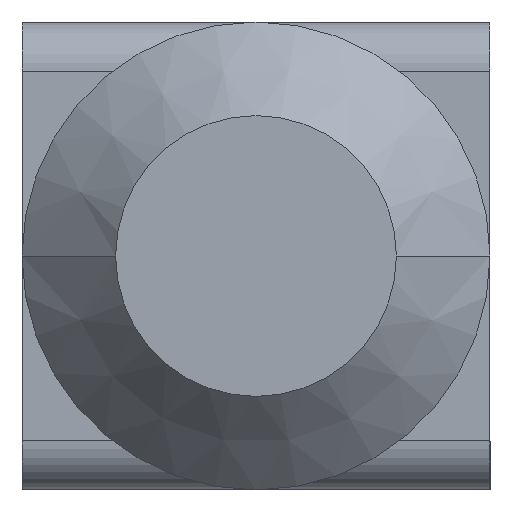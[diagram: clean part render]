
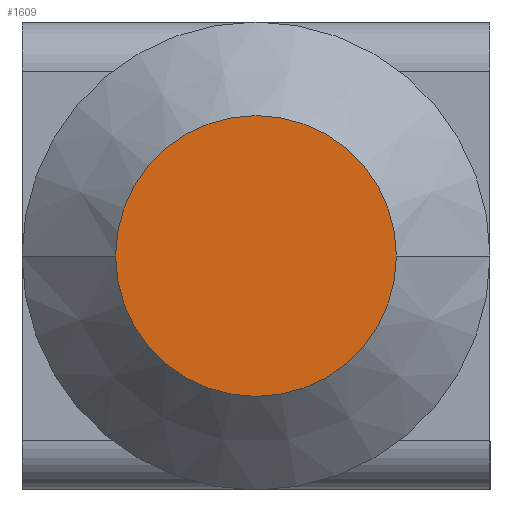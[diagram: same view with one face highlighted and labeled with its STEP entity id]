
A CAD part, front view. The second image highlights one B-rep face of the part: STEP entity #1609.
In plain terms, the highlighted planar face has unit normal (0, -1, 0).
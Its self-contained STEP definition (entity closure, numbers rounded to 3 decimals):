
#31 = VERTEX_POINT ( 'NONE', #1384 ) ;
#83 = CARTESIAN_POINT ( 'NONE',  ( 0., 0., 0. ) ) ;
#115 = AXIS2_PLACEMENT_3D ( 'NONE', #266, #1866, #1805 ) ;
#248 = FACE_OUTER_BOUND ( 'NONE', #1497, .T. ) ;
#266 = CARTESIAN_POINT ( 'NONE',  ( -6., 0., 0. ) ) ;
#336 = CARTESIAN_POINT ( 'NONE',  ( 0., 0., 0. ) ) ;
#344 = CIRCLE ( 'NONE', #1631, 6. ) ;
#367 = DIRECTION ( 'NONE',  ( 0., 1., 0. ) ) ;
#464 = PLANE ( 'NONE',  #115 ) ;
#559 = DIRECTION ( 'NONE',  ( -1., 0., 0. ) ) ;
#582 = ORIENTED_EDGE ( 'NONE', *, *, #1900, .F. ) ;
#682 = EDGE_CURVE ( 'NONE', #31, #1371, #2402, .T. ) ;
#878 = AXIS2_PLACEMENT_3D ( 'NONE', #83, #2041, #1207 ) ;
#1207 = DIRECTION ( 'NONE',  ( -1., 0., 0. ) ) ;
#1371 = VERTEX_POINT ( 'NONE', #1961 ) ;
#1384 = CARTESIAN_POINT ( 'NONE',  ( -6., 0., 0. ) ) ;
#1497 = EDGE_LOOP ( 'NONE', ( #2267, #582 ) ) ;
#1609 = ADVANCED_FACE ( 'NONE', ( #248 ), #464, .T. ) ;
#1631 = AXIS2_PLACEMENT_3D ( 'NONE', #336, #367, #559 ) ;
#1805 = DIRECTION ( 'NONE',  ( 1., 0., 0. ) ) ;
#1866 = DIRECTION ( 'NONE',  ( 0., -1., 0. ) ) ;
#1900 = EDGE_CURVE ( 'NONE', #1371, #31, #344, .T. ) ;
#1961 = CARTESIAN_POINT ( 'NONE',  ( 6., 0., 0. ) ) ;
#2041 = DIRECTION ( 'NONE',  ( 0., 1., 0. ) ) ;
#2267 = ORIENTED_EDGE ( 'NONE', *, *, #682, .F. ) ;
#2402 = CIRCLE ( 'NONE', #878, 6. ) ;
